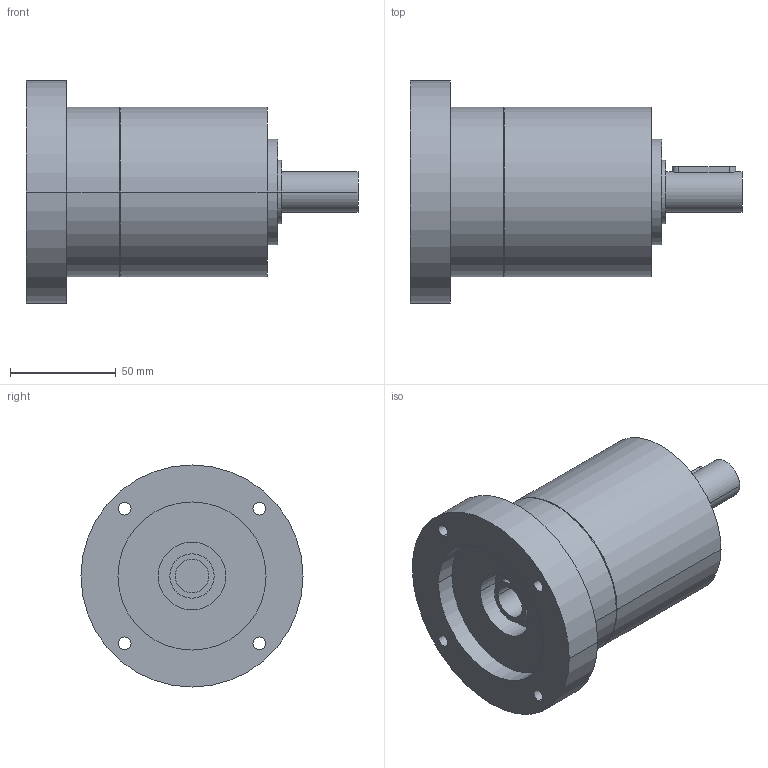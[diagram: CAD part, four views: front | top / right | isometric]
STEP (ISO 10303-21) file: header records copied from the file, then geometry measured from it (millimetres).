
FILE_DESCRIPTION(('CoCreate Modeling STEP Export'),'2;1');
FILE_NAME('GPR100_ig-3-4-5-6_19_B14_16_P14.stp','2014-08-26T10:08:11',(''),(''),'CoCreate Modeling STEP processor for AP214 (Solid Model)','CoCreate Modeling 16.00C 25-Feb-2009 (C) Parametric Technology GmbH','');
FILE_SCHEMA(('AUTOMOTIVE_DESIGN { 1 0 10303 214 1 1 1 1 }'));
Length unit declared in the file: millimetre
Products named in the file (2): GPR100_ig-3-4-5-6_19_B14_16_P14
Assembly tree (1 placements, depth 2):
  GPR100_ig-3-4-5-6_19_B14_16_P14
    GPR100_ig-3-4-5-6_19_B14_16_P14
Bounding box: 157 x 105 x 105 mm (x, y, z)
Volume: 610992.5 mm3; surface area: 59153.5 mm2
Topology: 1 solids, 1 shells, 76 faces, 203 edges, 145 vertices
Faces by surface type: cylinder 48, plane 22, cone 6
Entity records: 2027 total; most frequent: ORIENTED_EDGE 402, CARTESIAN_POINT 370, DIRECTION 262, EDGE_CURVE 201, VERTEX_POINT 145, EDGE_LOOP 102, AXIS2_PLACEMENT_3D 101, FACE_OUTER_BOUND 76
